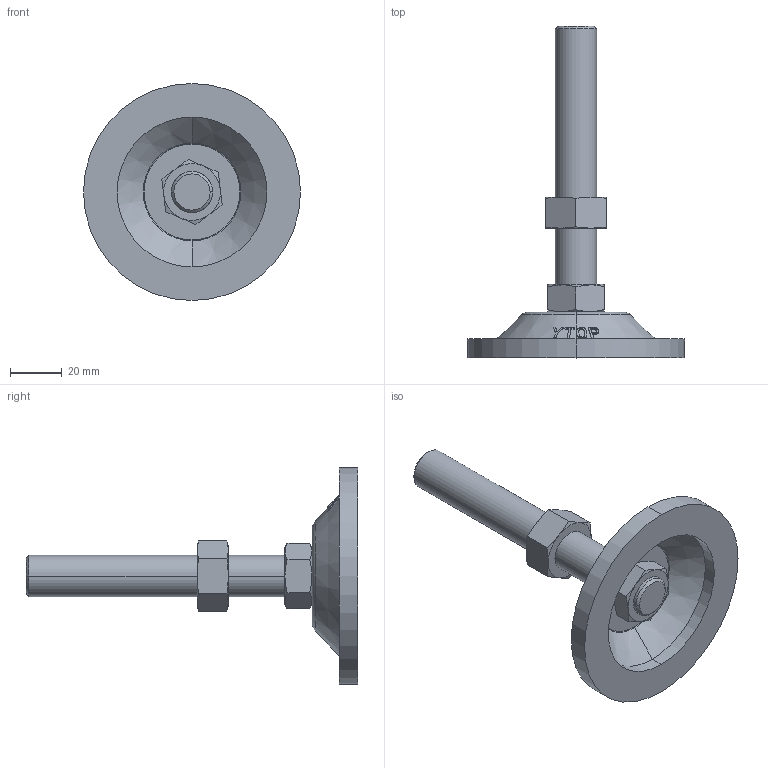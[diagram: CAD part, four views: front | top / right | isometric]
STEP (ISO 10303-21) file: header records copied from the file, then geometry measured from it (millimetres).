
FILE_DESCRIPTION (( 'STEP AP203' ), '1' );
FILE_NAME ('P-84-16100-BR.STEP', '2020-09-10T08:58:24', ( '' ), ( '' ), 'SwSTEP 2.0', 'SolidWorks 2016', '' );
FILE_SCHEMA (( 'CONFIG_CONTROL_DESIGN' ));
Length unit declared in the file: millimetre
Products named in the file (5): P-84-1菁釱-3P; 傲郈蹟裝M16炵蹈_M16X100; 脚垫调节六角螺母M16; P-84-16100-BR; 脚垫锁紧六角薄螺母M16
Assembly tree (4 placements, depth 2):
  P-84-16100-BR
    P-84-1菁釱-3P
    傲郈蹟裝M16炵蹈_M16X100
    脚垫锁紧六角薄螺母M16
    脚垫调节六角螺母M16
Bounding box: 84 x 128.4 x 84 mm (x, y, z)
Volume: 63169.9 mm3; surface area: 34865.1 mm2
Topology: 5 solids, 5 shells, 158 faces, 360 edges, 224 vertices
Faces by surface type: cone 56, bspline 38, plane 34, cylinder 20, torus 10
Entity records: 8917 total; most frequent: CARTESIAN_POINT 5213, ORIENTED_EDGE 720, DIRECTION 546, EDGE_CURVE 360, AXIS2_PLACEMENT_3D 241, VERTEX_POINT 224, B_SPLINE_CURVE_WITH_KNOTS 182, EDGE_LOOP 178
